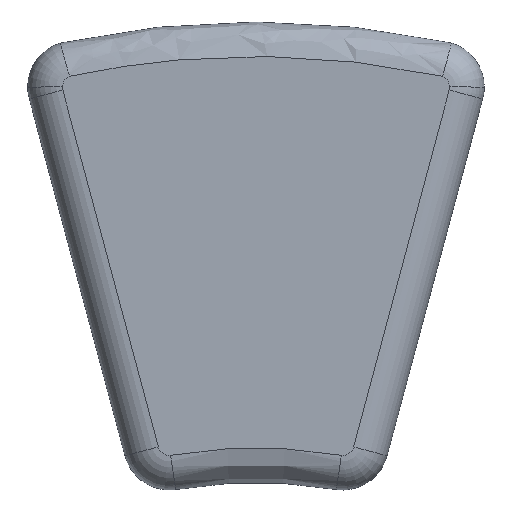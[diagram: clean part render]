
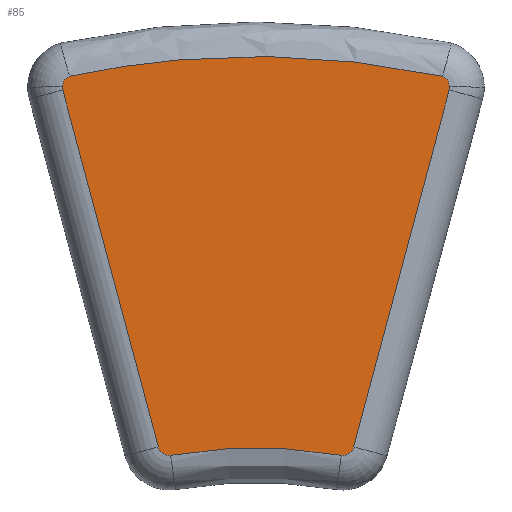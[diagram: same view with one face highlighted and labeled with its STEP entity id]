
A CAD part, top view. The second image highlights one B-rep face of the part: STEP entity #85.
In plain terms, the highlighted planar face has unit normal (0, 0, 1).
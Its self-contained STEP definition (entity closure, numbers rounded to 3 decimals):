
#38 = CARTESIAN_POINT ( 'NONE',  ( -16.192, 15.278, 0. ) ) ;
#60 = DIRECTION ( 'NONE',  ( 1., 0., 0. ) ) ;
#68 = VERTEX_POINT ( 'NONE', #969 ) ;
#85 = ADVANCED_FACE ( 'NONE', ( #2193 ), #751, .T. ) ;
#100 = VERTEX_POINT ( 'NONE', #1703 ) ;
#101 = DIRECTION ( 'NONE',  ( 1., 0., 0. ) ) ;
#110 = AXIS2_PLACEMENT_3D ( 'NONE', #2023, #564, #979 ) ;
#196 = CARTESIAN_POINT ( 'NONE',  ( 10.521, 16.283, 0. ) ) ;
#209 = CARTESIAN_POINT ( 'NONE',  ( 15.82, 14.35, 0. ) ) ;
#288 = ORIENTED_EDGE ( 'NONE', *, *, #666, .F. ) ;
#342 = AXIS2_PLACEMENT_3D ( 'NONE', #1146, #1652, #1312 ) ;
#367 = CARTESIAN_POINT ( 'NONE',  ( 14.865, 15.564, 0. ) ) ;
#378 = CARTESIAN_POINT ( 'NONE',  ( -7.827, 16.602, 0. ) ) ;
#388 = ORIENTED_EDGE ( 'NONE', *, *, #2001, .F. ) ;
#404 = CARTESIAN_POINT ( 'NONE',  ( 4.965, -17.215, 0. ) ) ;
#413 = CARTESIAN_POINT ( 'NONE',  ( 8.839, 16.492, 0. ) ) ;
#458 = CARTESIAN_POINT ( 'NONE',  ( -15.82, 14.35, 0. ) ) ;
#485 = B_SPLINE_CURVE_WITH_KNOTS ( 'NONE', 3,
 ( #2223, #572, #604, #1300, #404, #977 ),
 .UNSPECIFIED., .F., .F.,
 ( 4, 2, 4 ),
 ( 0., 0.5, 1. ),
 .UNSPECIFIED. ) ;
#495 = AXIS2_PLACEMENT_3D ( 'NONE', #458, #1726, #101 ) ;
#538 = AXIS2_PLACEMENT_3D ( 'NONE', #209, #929, #1519 ) ;
#550 = CARTESIAN_POINT ( 'NONE',  ( 2.729, 17., 0. ) ) ;
#564 = DIRECTION ( 'NONE',  ( 0., 0., 1. ) ) ;
#567 = VECTOR ( 'NONE', #937, 1000. ) ;
#572 = CARTESIAN_POINT ( 'NONE',  ( -4.965, -17.215, 0. ) ) ;
#575 = CARTESIAN_POINT ( 'NONE',  ( 8.486, -16.909, 0. ) ) ;
#589 = LINE ( 'NONE', #1994, #567 ) ;
#604 = CARTESIAN_POINT ( 'NONE',  ( -2.492, -17., 0. ) ) ;
#632 = CARTESIAN_POINT ( 'NONE',  ( -16.786, 14.091, 0. ) ) ;
#652 = EDGE_CURVE ( 'NONE', #1925, #903, #1905, .T. ) ;
#666 = EDGE_CURVE ( 'NONE', #989, #1766, #2080, .T. ) ;
#686 = AXIS2_PLACEMENT_3D ( 'NONE', #2120, #1204, #1896 ) ;
#700 = EDGE_CURVE ( 'NONE', #989, #100, #589, .T. ) ;
#736 = CARTESIAN_POINT ( 'NONE',  ( -3.408, 16.946, 0. ) ) ;
#746 = ORIENTED_EDGE ( 'NONE', *, *, #700, .T. ) ;
#751 = PLANE ( 'NONE',  #110 ) ;
#769 = CARTESIAN_POINT ( 'NONE',  ( 9.512, 16.411, 0. ) ) ;
#779 = CARTESIAN_POINT ( 'NONE',  ( 16.192, 15.278, 0. ) ) ;
#802 = DIRECTION ( 'NONE',  ( 1., 0., 0. ) ) ;
#876 = ORIENTED_EDGE ( 'NONE', *, *, #652, .T. ) ;
#903 = VERTEX_POINT ( 'NONE', #1769 ) ;
#918 = VECTOR ( 'NONE', #1719, 1000. ) ;
#929 = DIRECTION ( 'NONE',  ( 0., 0., -1. ) ) ;
#933 = CARTESIAN_POINT ( 'NONE',  ( 16.192, 15.278, 0. ) ) ;
#937 = DIRECTION ( 'NONE',  ( 0.259, 0.966, 0. ) ) ;
#963 = DIRECTION ( 'NONE',  ( 0., 0., -1. ) ) ;
#969 = CARTESIAN_POINT ( 'NONE',  ( -7.419, -17.645, 0. ) ) ;
#977 = CARTESIAN_POINT ( 'NONE',  ( 7.419, -17.645, 0. ) ) ;
#979 = DIRECTION ( 'NONE',  ( 1., 0., 0. ) ) ;
#989 = VERTEX_POINT ( 'NONE', #575 ) ;
#1007 = CARTESIAN_POINT ( 'NONE',  ( 7.419, -17.645, 0. ) ) ;
#1129 = CARTESIAN_POINT ( 'NONE',  ( -10.863, 16.278, 0. ) ) ;
#1146 = CARTESIAN_POINT ( 'NONE',  ( -7.52, -16.65, 0. ) ) ;
#1174 = EDGE_CURVE ( 'NONE', #1457, #2108, #1857, .T. ) ;
#1204 = DIRECTION ( 'NONE',  ( 0., 0., -1. ) ) ;
#1232 = EDGE_LOOP ( 'NONE', ( #2290, #2296, #288, #746, #2218, #388, #876, #1851, #1537, #2133 ) ) ;
#1268 = CARTESIAN_POINT ( 'NONE',  ( -16.82, 14.35, 0. ) ) ;
#1272 = CARTESIAN_POINT ( 'NONE',  ( 12.867, 15.939, 0. ) ) ;
#1296 = CARTESIAN_POINT ( 'NONE',  ( -7.486, 16.636, 0. ) ) ;
#1300 = CARTESIAN_POINT ( 'NONE',  ( 2.492, -17., 0. ) ) ;
#1309 = CARTESIAN_POINT ( 'NONE',  ( 5.451, 16.855, 0. ) ) ;
#1312 = DIRECTION ( 'NONE',  ( 1., 0., 0. ) ) ;
#1338 = AXIS2_PLACEMENT_3D ( 'NONE', #2292, #1361, #802 ) ;
#1351 = EDGE_CURVE ( 'NONE', #68, #1766, #485, .T. ) ;
#1361 = DIRECTION ( 'NONE',  ( 0., 0., -1. ) ) ;
#1367 = CIRCLE ( 'NONE', #342, 1. ) ;
#1368 = EDGE_CURVE ( 'NONE', #68, #2144, #1367, .T. ) ;
#1405 = LINE ( 'NONE', #632, #918 ) ;
#1430 = EDGE_CURVE ( 'NONE', #1482, #100, #1552, .T. ) ;
#1453 = CIRCLE ( 'NONE', #1338, 1. ) ;
#1457 = VERTEX_POINT ( 'NONE', #2021 ) ;
#1482 = VERTEX_POINT ( 'NONE', #1570 ) ;
#1497 = CARTESIAN_POINT ( 'NONE',  ( 7.52, -16.65, 0. ) ) ;
#1505 = CARTESIAN_POINT ( 'NONE',  ( 8.504, 16.53, 0. ) ) ;
#1519 = DIRECTION ( 'NONE',  ( 1., 0., 0. ) ) ;
#1537 = ORIENTED_EDGE ( 'NONE', *, *, #1174, .F. ) ;
#1552 = CIRCLE ( 'NONE', #538, 1. ) ;
#1570 = CARTESIAN_POINT ( 'NONE',  ( 16.82, 14.35, 0. ) ) ;
#1591 = AXIS2_PLACEMENT_3D ( 'NONE', #1497, #963, #60 ) ;
#1652 = DIRECTION ( 'NONE',  ( 0., 0., -1. ) ) ;
#1657 = CARTESIAN_POINT ( 'NONE',  ( -5.788, 16.788, 0. ) ) ;
#1703 = CARTESIAN_POINT ( 'NONE',  ( 16.786, 14.091, 0. ) ) ;
#1719 = DIRECTION ( 'NONE',  ( 0.259, -0.966, 0. ) ) ;
#1726 = DIRECTION ( 'NONE',  ( 0., 0., -1. ) ) ;
#1766 = VERTEX_POINT ( 'NONE', #1007 ) ;
#1769 = CARTESIAN_POINT ( 'NONE',  ( -16.192, 15.278, 0. ) ) ;
#1789 = CIRCLE ( 'NONE', #686, 1. ) ;
#1800 = EDGE_CURVE ( 'NONE', #1457, #2144, #1405, .T. ) ;
#1801 = CARTESIAN_POINT ( 'NONE',  ( -8.486, -16.909, 0. ) ) ;
#1818 = CARTESIAN_POINT ( 'NONE',  ( -13.538, 15.849, 0. ) ) ;
#1851 = ORIENTED_EDGE ( 'NONE', *, *, #2061, .F. ) ;
#1857 = CIRCLE ( 'NONE', #495, 1. ) ;
#1896 = DIRECTION ( 'NONE',  ( 1., 0., 0. ) ) ;
#1905 = B_SPLINE_CURVE_WITH_KNOTS ( 'NONE', 3,
 ( #779, #367, #1272, #196, #769, #413, #1505, #1309, #550, #2037, #736, #1657, #2027, #1296, #378, #1129, #1818, #38 ),
 .UNSPECIFIED., .F., .F.,
 ( 4, 1, 1, 2, 2, 2, 1, 1, 2, 2, 4 ),
 ( 0., 0.125, 0.187, 0.219, 0.25, 0.5, 0.625, 0.687, 0.719, 0.75, 1. ),
 .UNSPECIFIED. ) ;
#1925 = VERTEX_POINT ( 'NONE', #933 ) ;
#1994 = CARTESIAN_POINT ( 'NONE',  ( 8.486, -16.909, 0. ) ) ;
#2001 = EDGE_CURVE ( 'NONE', #1925, #1482, #1453, .T. ) ;
#2021 = CARTESIAN_POINT ( 'NONE',  ( -16.786, 14.091, 0. ) ) ;
#2023 = CARTESIAN_POINT ( 'NONE',  ( 0., -60., 0. ) ) ;
#2027 = CARTESIAN_POINT ( 'NONE',  ( -6.807, 16.699, 0. ) ) ;
#2037 = CARTESIAN_POINT ( 'NONE',  ( -1.364, 17., 0. ) ) ;
#2061 = EDGE_CURVE ( 'NONE', #2108, #903, #1789, .T. ) ;
#2080 = CIRCLE ( 'NONE', #1591, 1. ) ;
#2108 = VERTEX_POINT ( 'NONE', #1268 ) ;
#2120 = CARTESIAN_POINT ( 'NONE',  ( -15.82, 14.35, 0. ) ) ;
#2133 = ORIENTED_EDGE ( 'NONE', *, *, #1800, .T. ) ;
#2144 = VERTEX_POINT ( 'NONE', #1801 ) ;
#2193 = FACE_OUTER_BOUND ( 'NONE', #1232, .T. ) ;
#2218 = ORIENTED_EDGE ( 'NONE', *, *, #1430, .F. ) ;
#2223 = CARTESIAN_POINT ( 'NONE',  ( -7.419, -17.645, 0. ) ) ;
#2290 = ORIENTED_EDGE ( 'NONE', *, *, #1368, .F. ) ;
#2292 = CARTESIAN_POINT ( 'NONE',  ( 15.82, 14.35, 0. ) ) ;
#2296 = ORIENTED_EDGE ( 'NONE', *, *, #1351, .T. ) ;
